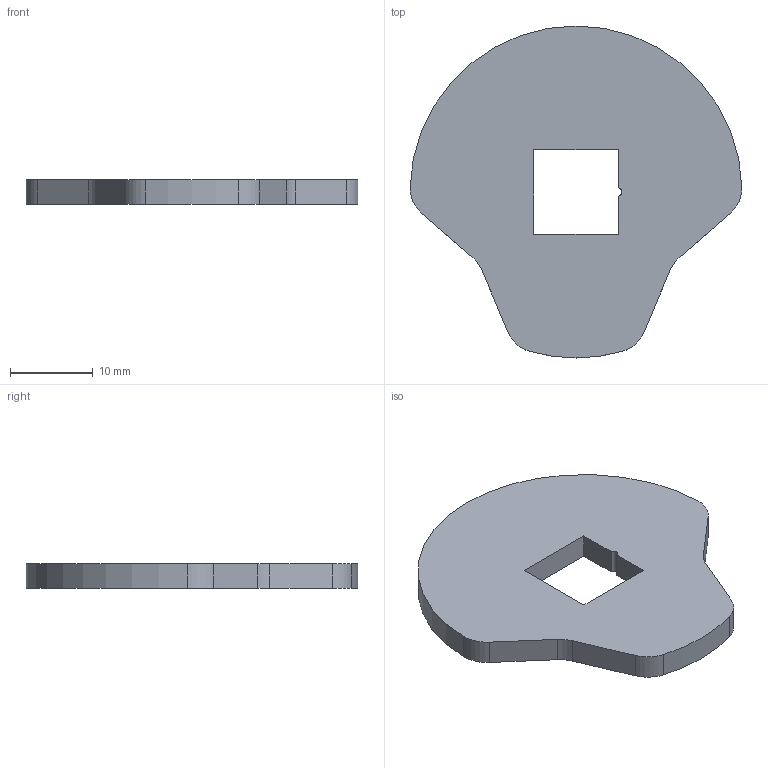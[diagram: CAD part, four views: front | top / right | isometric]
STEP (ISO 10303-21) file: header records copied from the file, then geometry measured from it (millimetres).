
FILE_DESCRIPTION(/* description */ ('STEP AP242','CAx-IF Rec.Pracs.---Representation and Presentation of Product Manufacturing Information (PMI)---4.0---2014-10-13','CAx-IF Rec.Pracs.---3D Tessellated Geometry---0.4---2014-09-14','2;1'),/* implementation_level */ '2;1');
FILE_NAME(/* name */ 'Part Studio 1 - Segment A Cam',/* time_stamp */ '2025-09-04T05:47:28Z',/* author */ (''),/* organization */ (''),/* preprocessor_version */ 'ST-DEVELOPER v20',/* originating_system */ 'ONSHAPE BY PTC INC, 1.203',/* authorisation */ ' ');
FILE_SCHEMA (('AP242_MANAGED_MODEL_BASED_3D_ENGINEERING_MIM_LF { 1 0 10303 442 1 1 4 }'));
Length unit declared in the file: metre
Products named in the file (1): Segment A Cam
Bounding box: 39.98 x 40 x 3 mm (x, y, z)
Volume: 3033.6 mm3; surface area: 2516.8 mm2
Topology: 1 solids, 1 shells, 20 faces, 54 edges, 36 vertices
Faces by surface type: plane 11, cylinder 9
Entity records: 662 total; most frequent: DIRECTION 114, CARTESIAN_POINT 111, ORIENTED_EDGE 108, EDGE_CURVE 54, AXIS2_PLACEMENT_3D 39, VERTEX_POINT 36, LINE 36, VECTOR 36
